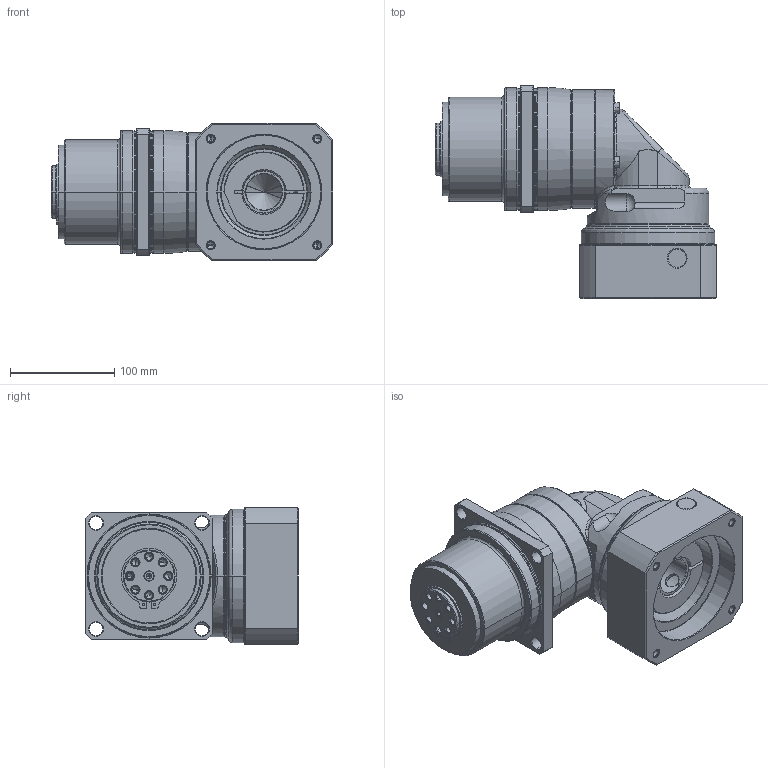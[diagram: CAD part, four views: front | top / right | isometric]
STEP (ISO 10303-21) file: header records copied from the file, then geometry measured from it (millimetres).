
FILE_DESCRIPTION((''),'2;1');
FILE_NAME('PLR120_2ST_35-P0411800101_ASM','2016-06-29T',('d00435'),(''),'PRO/ENGINEER BY PARAMETRIC TECHNOLOGY CORPORATION, 2008410','PRO/ENGINEER BY PARAMETRIC TECHNOLOGY CORPORATION, 2008410','');
FILE_SCHEMA(('CONFIG_CONTROL_DESIGN'));
Length unit declared in the file: millimetre
Products named in the file (11): P0272400001; P0366400001; 22802000029; P1356400001; P1349400001; P1017410001; P1350400401; P0411800101; P0503800010; P0713400401; PLR120_2ST_35-P0411800101_ASM
Assembly tree (10 placements, depth 2):
  PLR120_2ST_35-P0411800101_ASM
    P0272400001
    P0366400001
    22802000029
    P1356400001
    P1349400001
    P1017410001
    P1350400401
    P0411800101
    P0503800010
    P0713400401
Bounding box: 270.3 x 204.5 x 132 mm (x, y, z)
Volume: 2523654.2 mm3; surface area: 399035.5 mm2
Topology: 11 solids, 32 shells, 666 faces, 1567 edges, 939 vertices
Faces by surface type: cylinder 227, cone 188, plane 129, torus 90, bspline 30, sphere 2
Entity records: 22166 total; most frequent: CARTESIAN_POINT 6686, DIRECTION 3458, ORIENTED_EDGE 2954, EDGE_CURVE 1519, AXIS2_PLACEMENT_3D 1469, VERTEX_POINT 939, CIRCLE 802, EDGE_LOOP 764
